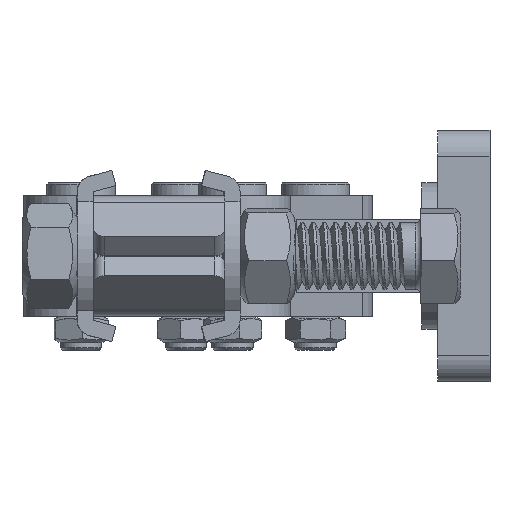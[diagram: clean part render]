
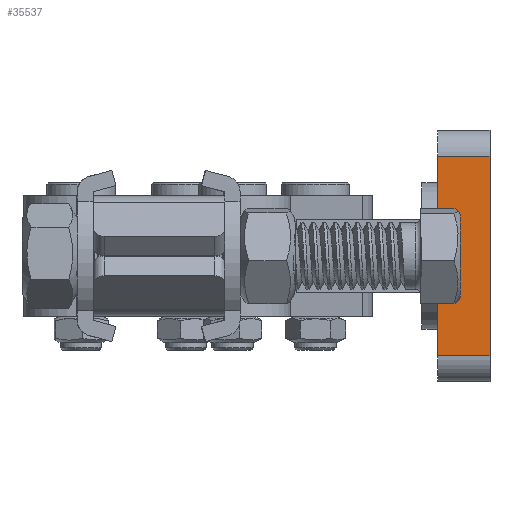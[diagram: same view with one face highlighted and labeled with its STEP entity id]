
A CAD part, left-side view. The second image highlights one B-rep face of the part: STEP entity #35537.
In plain terms, the highlighted planar face has unit normal (-1, 0, 0).
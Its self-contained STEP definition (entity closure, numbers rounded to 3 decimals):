
#1394=PLANE('',#37859);
#2618=FACE_OUTER_BOUND('',#4653,.T.);
#4653=EDGE_LOOP('',(#24286,#24287,#24288,#24289));
#6800=LINE('',#50299,#10474);
#6808=LINE('',#50317,#10482);
#6809=LINE('',#50319,#10483);
#6810=LINE('',#50320,#10484);
#10474=VECTOR('',#40847,1000.);
#10482=VECTOR('',#40861,1000.);
#10483=VECTOR('',#40862,1000.);
#10484=VECTOR('',#40863,1000.);
#15250=VERTEX_POINT('',#50296);
#15251=VERTEX_POINT('',#50298);
#15258=VERTEX_POINT('',#50316);
#15259=VERTEX_POINT('',#50318);
#18785=EDGE_CURVE('',#15251,#15250,#6800,.T.);
#18795=EDGE_CURVE('',#15250,#15258,#6808,.T.);
#18796=EDGE_CURVE('',#15259,#15258,#6809,.T.);
#18797=EDGE_CURVE('',#15259,#15251,#6810,.T.);
#24286=ORIENTED_EDGE('',*,*,#18785,.T.);
#24287=ORIENTED_EDGE('',*,*,#18795,.T.);
#24288=ORIENTED_EDGE('',*,*,#18796,.F.);
#24289=ORIENTED_EDGE('',*,*,#18797,.T.);
#35537=ADVANCED_FACE('',(#2618),#1394,.F.);
#37859=AXIS2_PLACEMENT_3D('',#50315,#40859,#40860);
#40847=DIRECTION('',(0.,0.,-1.));
#40859=DIRECTION('center_axis',(1.,0.,0.));
#40860=DIRECTION('ref_axis',(0.,0.,-1.));
#40861=DIRECTION('',(0.,-1.,0.));
#40862=DIRECTION('',(0.,0.,-1.));
#40863=DIRECTION('',(0.,1.,0.));
#50296=CARTESIAN_POINT('',(0.,10.,5.));
#50298=CARTESIAN_POINT('',(0.,10.,43.));
#50299=CARTESIAN_POINT('',(0.,10.,48.));
#50315=CARTESIAN_POINT('Origin',(0.,0.,48.));
#50316=CARTESIAN_POINT('',(0.,0.,5.));
#50317=CARTESIAN_POINT('',(0.,0.,5.));
#50318=CARTESIAN_POINT('',(0.,0.,43.));
#50319=CARTESIAN_POINT('',(0.,0.,48.));
#50320=CARTESIAN_POINT('',(0.,0.,43.));
